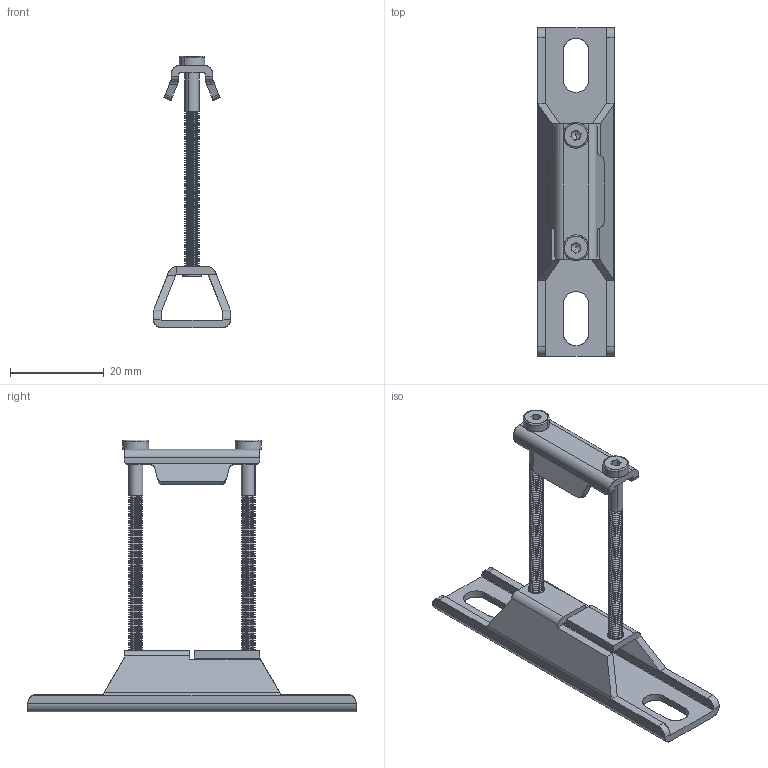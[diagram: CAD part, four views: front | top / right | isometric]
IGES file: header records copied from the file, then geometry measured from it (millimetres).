
Start section: SolidWorks IGES file using analytic representation for surfaces
Global section: file name: C:\Documents and Settings\Administrator\桌面\ZGFRL600CMB.IGS,1; native system: 5HSolidWorks 2012; preprocessor: SolidWorks 2012; author: Administrator; date: 140703.150214; units: millimetre
Bounding box: 16.4 x 70 x 58 mm (x, y, z)
Surface area: 6974.5 mm2 (no closed solid volume)
Topology: 0 solids, 0 shells, 1010 faces, 9062 edges, 11728 vertices
Faces by surface type: revolution 912, bspline 98
